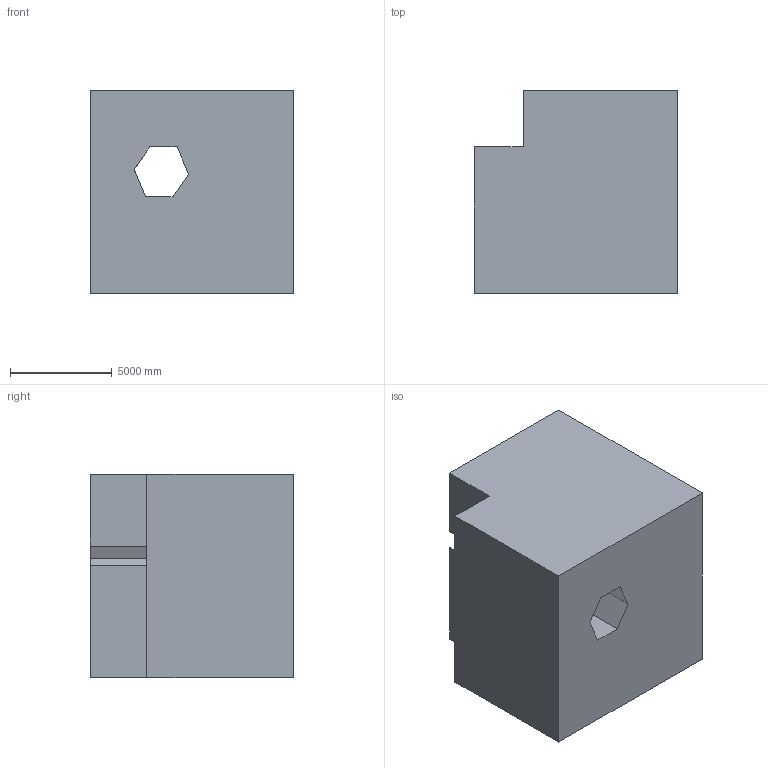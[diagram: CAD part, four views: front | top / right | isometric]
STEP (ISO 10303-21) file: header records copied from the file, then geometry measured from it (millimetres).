
FILE_DESCRIPTION (( 'STEP AP203' ), '1' );
FILE_NAME ('200.STEP', '2022-07-28T13:53:02', ( 'user' ), ( '' ), 'SwSTEP 2.0', 'SolidWorks 2021', '' );
FILE_SCHEMA (( 'CONFIG_CONTROL_DESIGN' ));
Length unit declared in the file: centimetre
Products named in the file (1): 200
Bounding box: 10000 x 10000 x 10000 mm (x, y, z)
Volume: 864964951113.7 mm3; surface area: 645142825.3 mm2
Topology: 1 solids, 1 shells, 17 faces, 48 edges, 32 vertices
Faces by surface type: plane 17
Entity records: 623 total; most frequent: CARTESIAN_POINT 98, ORIENTED_EDGE 96, DIRECTION 84, EDGE_CURVE 48, VECTOR 48, LINE 48, VERTEX_POINT 32, EDGE_LOOP 18
